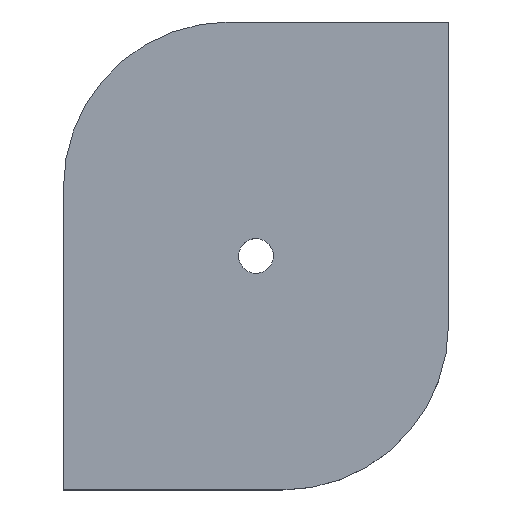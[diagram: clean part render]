
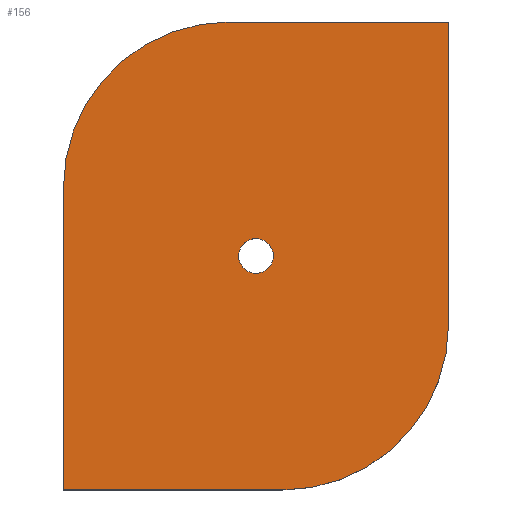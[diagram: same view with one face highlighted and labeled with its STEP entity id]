
A CAD part, top view. The second image highlights one B-rep face of the part: STEP entity #156.
In plain terms, the highlighted planar face has unit normal (0, 0, 1).
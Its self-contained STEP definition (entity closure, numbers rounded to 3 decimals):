
#63=CARTESIAN_POINT('Vertex',(42.825,58.508,8.)) ;
#77=CARTESIAN_POINT('Vertex',(50.175,54.492,8.)) ;
#80=CARTESIAN_POINT('Axis2P3D Location',(46.5,56.5,8.)) ;
#92=CARTESIAN_POINT('Axis2P3D Location',(0.,0.,8.)) ;
#97=CARTESIAN_POINT('Line Origine',(0.,36.5,8.)) ;
#101=CARTESIAN_POINT('Vertex',(0.,73.,8.)) ;
#103=CARTESIAN_POINT('Vertex',(0.,0.,8.)) ;
#106=CARTESIAN_POINT('Line Origine',(26.5,0.,8.)) ;
#110=CARTESIAN_POINT('Vertex',(53.,0.,8.)) ;
#113=CARTESIAN_POINT('Axis2P3D Location',(53.,40.,8.)) ;
#117=CARTESIAN_POINT('Vertex',(93.,40.,8.)) ;
#120=CARTESIAN_POINT('Line Origine',(93.,76.5,8.)) ;
#124=CARTESIAN_POINT('Vertex',(93.,113.,8.)) ;
#127=CARTESIAN_POINT('Line Origine',(66.5,113.,8.)) ;
#131=CARTESIAN_POINT('Vertex',(40.,113.,8.)) ;
#134=CARTESIAN_POINT('Axis2P3D Location',(40.,73.,8.)) ;
#147=CARTESIAN_POINT('Axis2P3D Location',(46.5,56.5,8.)) ;
#81=DIRECTION('Axis2P3D Direction',(0.,-0.,-1.)) ;
#93=DIRECTION('Axis2P3D Direction',(0.,0.,1.)) ;
#94=DIRECTION('Axis2P3D XDirection',(1.,0.,0.)) ;
#98=DIRECTION('Vector Direction',(0.,-1.,0.)) ;
#107=DIRECTION('Vector Direction',(1.,0.,0.)) ;
#114=DIRECTION('Axis2P3D Direction',(0.,0.,1.)) ;
#121=DIRECTION('Vector Direction',(0.,1.,0.)) ;
#128=DIRECTION('Vector Direction',(-1.,0.,0.)) ;
#135=DIRECTION('Axis2P3D Direction',(0.,0.,1.)) ;
#148=DIRECTION('Axis2P3D Direction',(0.,0.,1.)) ;
#82=AXIS2_PLACEMENT_3D('Circle Axis2P3D',#80,#81,$) ;
#95=AXIS2_PLACEMENT_3D('Plane Axis2P3D',#92,#93,#94) ;
#115=AXIS2_PLACEMENT_3D('Circle Axis2P3D',#113,#114,$) ;
#136=AXIS2_PLACEMENT_3D('Circle Axis2P3D',#134,#135,$) ;
#149=AXIS2_PLACEMENT_3D('Circle Axis2P3D',#147,#148,$) ;
#140=ORIENTED_EDGE('',*,*,#105,.T.) ;
#141=ORIENTED_EDGE('',*,*,#112,.T.) ;
#142=ORIENTED_EDGE('',*,*,#119,.F.) ;
#143=ORIENTED_EDGE('',*,*,#126,.T.) ;
#144=ORIENTED_EDGE('',*,*,#133,.T.) ;
#145=ORIENTED_EDGE('',*,*,#138,.F.) ;
#153=ORIENTED_EDGE('',*,*,#151,.F.) ;
#154=ORIENTED_EDGE('',*,*,#84,.F.) ;
#155=FACE_BOUND('',#152,.T.) ;
#99=VECTOR('Line Direction',#98,1.) ;
#108=VECTOR('Line Direction',#107,1.) ;
#122=VECTOR('Line Direction',#121,1.) ;
#129=VECTOR('Line Direction',#128,1.) ;
#156=ADVANCED_FACE('PartBody',(#146,#155),#96,.T.) ;
#83=CIRCLE('generated circle',#82,4.188) ;
#116=CIRCLE('generated circle',#115,40.) ;
#137=CIRCLE('generated circle',#136,40.) ;
#150=CIRCLE('generated circle',#149,4.188) ;
#84=EDGE_CURVE('',#78,#64,#83,.F.) ;
#105=EDGE_CURVE('',#102,#104,#100,.T.) ;
#112=EDGE_CURVE('',#104,#111,#109,.T.) ;
#119=EDGE_CURVE('',#118,#111,#116,.F.) ;
#126=EDGE_CURVE('',#118,#125,#123,.T.) ;
#133=EDGE_CURVE('',#125,#132,#130,.T.) ;
#138=EDGE_CURVE('',#102,#132,#137,.F.) ;
#151=EDGE_CURVE('',#64,#78,#150,.T.) ;
#139=EDGE_LOOP('',(#140,#141,#142,#143,#144,#145)) ;
#152=EDGE_LOOP('',(#153,#154)) ;
#146=FACE_OUTER_BOUND('',#139,.T.) ;
#100=LINE('Line',#97,#99) ;
#109=LINE('Line',#106,#108) ;
#123=LINE('Line',#120,#122) ;
#130=LINE('Line',#127,#129) ;
#96=PLANE('',#95) ;
#64=VERTEX_POINT('',#63) ;
#78=VERTEX_POINT('',#77) ;
#102=VERTEX_POINT('',#101) ;
#104=VERTEX_POINT('',#103) ;
#111=VERTEX_POINT('',#110) ;
#118=VERTEX_POINT('',#117) ;
#125=VERTEX_POINT('',#124) ;
#132=VERTEX_POINT('',#131) ;
